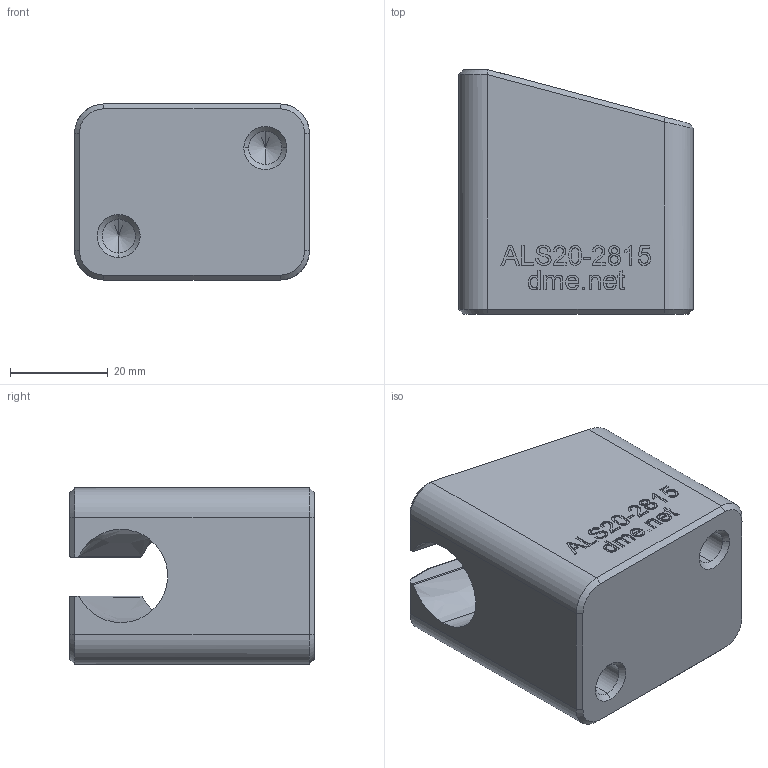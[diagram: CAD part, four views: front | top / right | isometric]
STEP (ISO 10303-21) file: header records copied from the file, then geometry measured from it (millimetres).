
FILE_DESCRIPTION (( 'STEP AP203' ), '1' );
FILE_NAME ('ALS20-2815.STEP', '2021-01-11T12:24:44', ( '' ), ( '' ), 'SwSTEP 2.0', 'SolidWorks 2020', '' );
FILE_SCHEMA (( 'CONFIG_CONTROL_DESIGN' ));
Length unit declared in the file: millimetre
Products named in the file (1): ALS20-2815
Bounding box: 48 x 50 x 36 mm (x, y, z)
Volume: 60366.5 mm3; surface area: 12885.5 mm2
Topology: 1 solids, 1 shells, 283 faces, 747 edges, 488 vertices
Faces by surface type: plane 134, bspline 121, cone 14, cylinder 14
Entity records: 15310 total; most frequent: CARTESIAN_POINT 9112, ORIENTED_EDGE 1486, DIRECTION 837, EDGE_CURVE 743, VERTEX_POINT 488, LINE 459, VECTOR 459, EDGE_LOOP 309
